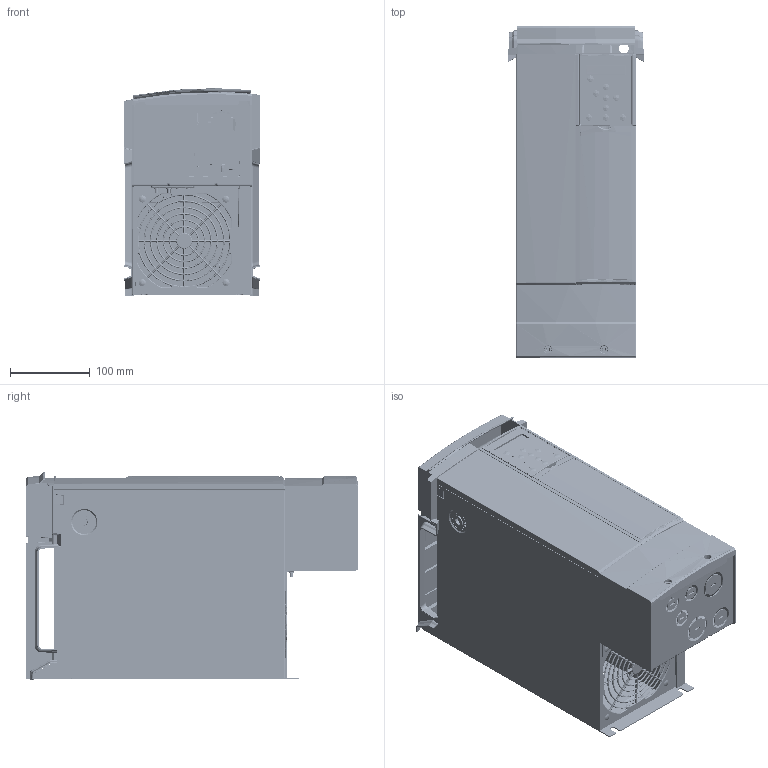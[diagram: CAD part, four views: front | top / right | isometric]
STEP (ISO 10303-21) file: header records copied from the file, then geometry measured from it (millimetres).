
FILE_DESCRIPTION((''),'2;1');
FILE_NAME('H5-IP21_OUTLINE','2012-11-22T',('u242158'),('Danfoss Power Electronics'),'PRO/ENGINEER BY PARAMETRIC TECHNOLOGY CORPORATION, 2011490','PRO/ENGINEER BY PARAMETRIC TECHNOLOGY CORPORATION, 2011490','');
FILE_SCHEMA(('CONFIG_CONTROL_DESIGN', 'GEOMETRIC_VALIDATION_PROPERTIES_MIM'));
Products named in the file (1): H5-IP21_OUTLINE
Bounding box: 170.53 x 417 x 260.59 mm (x, y, z)
Volume: 4567046.5 mm3; surface area: 1111972 mm2
Topology: 1 solids, 40 shells, 17448 faces, 48321 edges, 30993 vertices
Faces by surface type: plane 12238, cylinder 2964, bspline 1085, sphere 530, torus 360, cone 271
Entity records: 765537 total; most frequent: CARTESIAN_POINT 242429, ORIENTED_EDGE 95403, DIRECTION 75453, EDGE_CURVE 47980, VERTEX_POINT 30993, VECTOR 30139, LINE 30139, PRESENTATION_STYLE_ASSIGNMENT 23296
